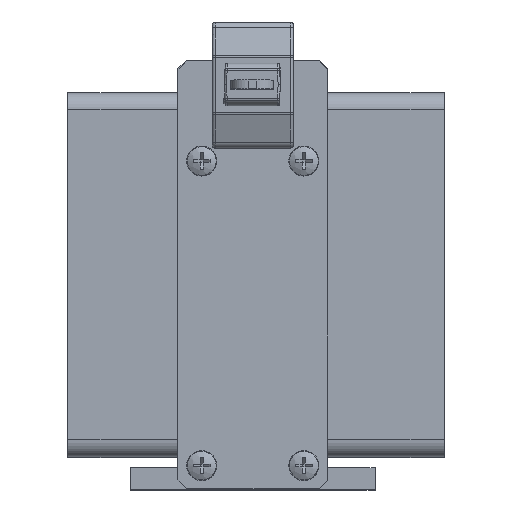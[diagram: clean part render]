
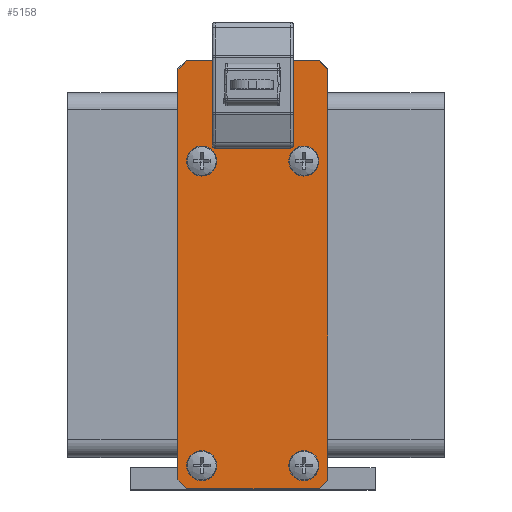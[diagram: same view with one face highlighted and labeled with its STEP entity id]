
A CAD part, top view. The second image highlights one B-rep face of the part: STEP entity #5158.
In plain terms, the highlighted planar face has unit normal (0, 0, 1).
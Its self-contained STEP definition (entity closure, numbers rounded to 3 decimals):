
#3755=CARTESIAN_POINT('',(6.5,97.,112.0));
#3756=VERTEX_POINT('',#3755);
#3763=CARTESIAN_POINT('',(-6.5,97.0,112.0));
#3764=VERTEX_POINT('',#3763);
#3765=CARTESIAN_POINT('',(6.5,97.,112.0));
#3766=DIRECTION('',(-1.0,0.0,0.0));
#3767=VECTOR('',#3766,13.);
#3768=LINE('',#3765,#3767);
#3769=EDGE_CURVE('',#3756,#3764,#3768,.T.);
#4037=CARTESIAN_POINT('',(17.5,2.1,112.0));
#4038=VERTEX_POINT('',#4037);
#4045=CARTESIAN_POINT('',(15.5,0.1,112.0));
#4046=VERTEX_POINT('',#4045);
#4047=CARTESIAN_POINT('',(17.5,2.1,112.0));
#4048=DIRECTION('',(-0.707,-0.707,0.0));
#4049=VECTOR('',#4048,2.828);
#4050=LINE('',#4047,#4049);
#4051=EDGE_CURVE('',#4038,#4046,#4050,.T.);
#4076=CARTESIAN_POINT('',(-15.4,0.1,112.0));
#4077=VERTEX_POINT('',#4076);
#4078=CARTESIAN_POINT('',(15.5,0.1,112.0));
#4079=DIRECTION('',(-1.0,0.0,0.0));
#4080=VECTOR('',#4079,30.9);
#4081=LINE('',#4078,#4080);
#4082=EDGE_CURVE('',#4046,#4077,#4081,.T.);
#4100=CARTESIAN_POINT('',(6.5,99.8,112.0));
#4101=VERTEX_POINT('',#4100);
#4116=CARTESIAN_POINT('',(-6.5,99.8,112.0));
#4117=VERTEX_POINT('',#4116);
#4124=CARTESIAN_POINT('',(-6.5,99.8,112.0));
#4125=DIRECTION('',(1.0,0.0,0.0));
#4126=VECTOR('',#4125,13.);
#4127=LINE('',#4124,#4126);
#4128=EDGE_CURVE('',#4117,#4101,#4127,.T.);
#4730=CARTESIAN_POINT('',(17.5,97.8,112.0));
#4731=VERTEX_POINT('',#4730);
#4738=CARTESIAN_POINT('',(17.5,97.8,112.0));
#4739=DIRECTION('',(0.0,-1.0,0.0));
#4740=VECTOR('',#4739,95.7);
#4741=LINE('',#4738,#4740);
#4742=EDGE_CURVE('',#4731,#4038,#4741,.T.);
#4814=CARTESIAN_POINT('',(-17.45,2.15,112.0));
#4815=VERTEX_POINT('',#4814);
#4816=CARTESIAN_POINT('',(-15.4,0.1,112.0));
#4817=DIRECTION('',(-0.707,0.707,0.0));
#4818=VECTOR('',#4817,2.899);
#4819=LINE('',#4816,#4818);
#4820=EDGE_CURVE('',#4077,#4815,#4819,.T.);
#4846=CARTESIAN_POINT('',(6.5,99.85,112.0));
#4847=VERTEX_POINT('',#4846);
#4848=CARTESIAN_POINT('',(6.5,99.85,112.0));
#4849=DIRECTION('',(0.0,-1.0,0.0));
#4850=VECTOR('',#4849,0.05);
#4851=LINE('',#4848,#4850);
#4852=EDGE_CURVE('',#4847,#4101,#4851,.T.);
#5000=CARTESIAN_POINT('',(0.,50.,112.0));
#5001=DIRECTION('',(0.0,0.0,1.0));
#5002=DIRECTION('',(-1.0,0.0,0.0));
#5003=AXIS2_PLACEMENT_3D('',#5000,#5001,#5002);
#5004=PLANE('',#5003);
#5005=ORIENTED_EDGE('',*,*,#4128,.F.);
#5006=CARTESIAN_POINT('',(-6.5,99.85,112.0));
#5007=VERTEX_POINT('',#5006);
#5008=CARTESIAN_POINT('',(-6.5,99.8,112.0));
#5009=DIRECTION('',(0.,1.0,0.0));
#5010=VECTOR('',#5009,0.05);
#5011=LINE('',#5008,#5010);
#5012=EDGE_CURVE('',#4117,#5007,#5011,.T.);
#5013=ORIENTED_EDGE('',*,*,#5012,.T.);
#5014=CARTESIAN_POINT('',(-15.45,99.85,112.0));
#5015=VERTEX_POINT('',#5014);
#5016=CARTESIAN_POINT('',(-15.45,99.85,112.0));
#5017=DIRECTION('',(1.0,0.0,0.0));
#5018=VECTOR('',#5017,8.95);
#5019=LINE('',#5016,#5018);
#5020=EDGE_CURVE('',#5015,#5007,#5019,.T.);
#5021=ORIENTED_EDGE('',*,*,#5020,.F.);
#5022=CARTESIAN_POINT('',(-17.45,97.85,112.0));
#5023=VERTEX_POINT('',#5022);
#5024=CARTESIAN_POINT('',(-17.45,97.85,112.0));
#5025=DIRECTION('',(0.707,0.707,0.0));
#5026=VECTOR('',#5025,2.828);
#5027=LINE('',#5024,#5026);
#5028=EDGE_CURVE('',#5023,#5015,#5027,.T.);
#5029=ORIENTED_EDGE('',*,*,#5028,.F.);
#5030=CARTESIAN_POINT('',(-17.45,2.15,112.0));
#5031=DIRECTION('',(0.0,1.0,0.0));
#5032=VECTOR('',#5031,95.7);
#5033=LINE('',#5030,#5032);
#5034=EDGE_CURVE('',#4815,#5023,#5033,.T.);
#5035=ORIENTED_EDGE('',*,*,#5034,.F.);
#5036=ORIENTED_EDGE('',*,*,#4820,.F.);
#5037=ORIENTED_EDGE('',*,*,#4082,.F.);
#5038=ORIENTED_EDGE('',*,*,#4051,.F.);
#5039=ORIENTED_EDGE('',*,*,#4742,.F.);
#5040=CARTESIAN_POINT('',(15.45,99.85,112.0));
#5041=VERTEX_POINT('',#5040);
#5042=CARTESIAN_POINT('',(15.45,99.85,112.0));
#5043=DIRECTION('',(0.707,-0.707,0.0));
#5044=VECTOR('',#5043,2.899);
#5045=LINE('',#5042,#5044);
#5046=EDGE_CURVE('',#5041,#4731,#5045,.T.);
#5047=ORIENTED_EDGE('',*,*,#5046,.F.);
#5048=CARTESIAN_POINT('',(6.5,99.85,112.0));
#5049=DIRECTION('',(1.0,0.0,0.0));
#5050=VECTOR('',#5049,8.95);
#5051=LINE('',#5048,#5050);
#5052=EDGE_CURVE('',#4847,#5041,#5051,.T.);
#5053=ORIENTED_EDGE('',*,*,#5052,.F.);
#5054=ORIENTED_EDGE('',*,*,#4852,.T.);
#5055=EDGE_LOOP('',(#5005,#5013,#5021,#5029,#5035,#5036,#5037,#5038,#5039,#5047,#5053,#5054));
#5056=FACE_OUTER_BOUND('',#5055,.T.);
#5057=CARTESIAN_POINT('',(6.5,96.806,112.));
#5058=VERTEX_POINT('',#5057);
#5059=CARTESIAN_POINT('',(6.5,96.806,112.));
#5060=DIRECTION('',(0.,1.0,0.));
#5061=VECTOR('',#5060,0.194);
#5062=LINE('',#5059,#5061);
#5063=EDGE_CURVE('',#5058,#3756,#5062,.T.);
#5064=ORIENTED_EDGE('',*,*,#5063,.F.);
#5065=CARTESIAN_POINT('',(8.75,96.806,112.));
#5066=VERTEX_POINT('',#5065);
#5067=CARTESIAN_POINT('',(8.75,96.806,112.));
#5068=DIRECTION('',(-1.0,0.0,0.0));
#5069=VECTOR('',#5068,2.25);
#5070=LINE('',#5067,#5069);
#5071=EDGE_CURVE('',#5066,#5058,#5070,.T.);
#5072=ORIENTED_EDGE('',*,*,#5071,.F.);
#5073=CARTESIAN_POINT('',(8.75,80.5,112.));
#5074=VERTEX_POINT('',#5073);
#5075=CARTESIAN_POINT('',(8.75,80.5,112.));
#5076=DIRECTION('',(0.0,1.0,0.0));
#5077=VECTOR('',#5076,16.306);
#5078=LINE('',#5075,#5077);
#5079=EDGE_CURVE('',#5074,#5066,#5078,.T.);
#5080=ORIENTED_EDGE('',*,*,#5079,.F.);
#5081=CARTESIAN_POINT('',(-8.75,80.5,112.));
#5082=VERTEX_POINT('',#5081);
#5083=CARTESIAN_POINT('',(8.75,80.5,112.));
#5084=DIRECTION('',(-1.0,0.0,0.0));
#5085=VECTOR('',#5084,17.5);
#5086=LINE('',#5083,#5085);
#5087=EDGE_CURVE('',#5074,#5082,#5086,.T.);
#5088=ORIENTED_EDGE('',*,*,#5087,.T.);
#5089=CARTESIAN_POINT('',(-8.75,96.806,112.));
#5090=VERTEX_POINT('',#5089);
#5091=CARTESIAN_POINT('',(-8.75,80.5,112.));
#5092=DIRECTION('',(0.0,1.0,0.0));
#5093=VECTOR('',#5092,16.306);
#5094=LINE('',#5091,#5093);
#5095=EDGE_CURVE('',#5082,#5090,#5094,.T.);
#5096=ORIENTED_EDGE('',*,*,#5095,.T.);
#5097=CARTESIAN_POINT('',(-6.5,96.806,112.));
#5098=VERTEX_POINT('',#5097);
#5099=CARTESIAN_POINT('',(-8.75,96.806,112.));
#5100=DIRECTION('',(1.0,0.0,0.0));
#5101=VECTOR('',#5100,2.25);
#5102=LINE('',#5099,#5101);
#5103=EDGE_CURVE('',#5090,#5098,#5102,.T.);
#5104=ORIENTED_EDGE('',*,*,#5103,.T.);
#5105=CARTESIAN_POINT('',(-6.5,97.0,112.0));
#5106=DIRECTION('',(0.,-1.0,0.));
#5107=VECTOR('',#5106,0.194);
#5108=LINE('',#5105,#5107);
#5109=EDGE_CURVE('',#3764,#5098,#5108,.T.);
#5110=ORIENTED_EDGE('',*,*,#5109,.F.);
#5111=ORIENTED_EDGE('',*,*,#3769,.F.);
#5112=EDGE_LOOP('',(#5064,#5072,#5080,#5088,#5096,#5104,#5110,#5111));
#5113=FACE_BOUND('',#5112,.T.);
#5114=CARTESIAN_POINT('',(-11.9,80.,112.));
#5115=VERTEX_POINT('',#5114);
#5116=CARTESIAN_POINT('',(-11.9,76.5,112.0));
#5117=DIRECTION('',(0.0,0.0,-1.0));
#5118=DIRECTION('',(0.0,1.0,0.0));
#5119=AXIS2_PLACEMENT_3D('',#5116,#5117,#5118);
#5120=CIRCLE('',#5119,3.5);
#5121=EDGE_CURVE('',#5115,#5115,#5120,.T.);
#5122=ORIENTED_EDGE('',*,*,#5121,.T.);
#5123=EDGE_LOOP('',(#5122));
#5124=FACE_BOUND('',#5123,.T.);
#5125=CARTESIAN_POINT('',(11.9,80.,112.0));
#5126=VERTEX_POINT('',#5125);
#5127=CARTESIAN_POINT('',(11.9,76.5,112.));
#5128=DIRECTION('',(0.0,0.0,-1.0));
#5129=DIRECTION('',(0.0,1.0,0.0));
#5130=AXIS2_PLACEMENT_3D('',#5127,#5128,#5129);
#5131=CIRCLE('',#5130,3.5);
#5132=EDGE_CURVE('',#5126,#5126,#5131,.T.);
#5133=ORIENTED_EDGE('',*,*,#5132,.T.);
#5134=EDGE_LOOP('',(#5133));
#5135=FACE_BOUND('',#5134,.T.);
#5136=CARTESIAN_POINT('',(-11.9,9.,112.));
#5137=VERTEX_POINT('',#5136);
#5138=CARTESIAN_POINT('',(-11.9,5.5,112.));
#5139=DIRECTION('',(0.0,0.0,-1.0));
#5140=DIRECTION('',(0.0,1.0,0.0));
#5141=AXIS2_PLACEMENT_3D('',#5138,#5139,#5140);
#5142=CIRCLE('',#5141,3.5);
#5143=EDGE_CURVE('',#5137,#5137,#5142,.T.);
#5144=ORIENTED_EDGE('',*,*,#5143,.T.);
#5145=EDGE_LOOP('',(#5144));
#5146=FACE_BOUND('',#5145,.T.);
#5147=CARTESIAN_POINT('',(11.9,9.,112.0));
#5148=VERTEX_POINT('',#5147);
#5149=CARTESIAN_POINT('',(11.9,5.5,112.0));
#5150=DIRECTION('',(0.0,0.0,-1.0));
#5151=DIRECTION('',(0.0,1.0,0.0));
#5152=AXIS2_PLACEMENT_3D('',#5149,#5150,#5151);
#5153=CIRCLE('',#5152,3.5);
#5154=EDGE_CURVE('',#5148,#5148,#5153,.T.);
#5155=ORIENTED_EDGE('',*,*,#5154,.T.);
#5156=EDGE_LOOP('',(#5155));
#5157=FACE_BOUND('',#5156,.T.);
#5158=ADVANCED_FACE('',(#5056,#5113,#5124,#5135,#5146,#5157),#5004,.T.);
